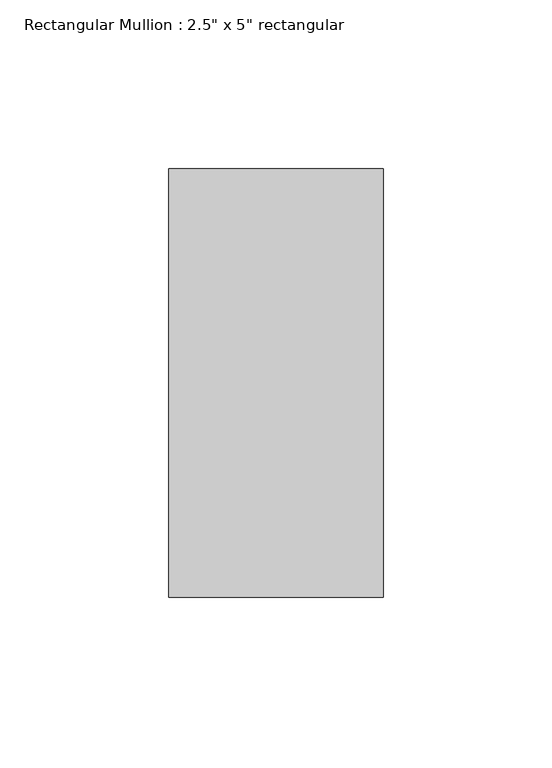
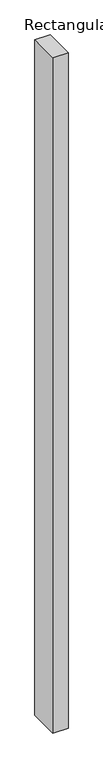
"""IFC4 building model written with IfcOpenShell, lengths in millimetres: member geometry."""

from ifc_helpers import new_model, si_unit, frame, origin, place, context, project, spatial, polyline, outline, extrude, source, transform, mapped, element, save


def member_77f17b2c(model_context):
    return source(origin(), model_context, "Body", "SweptSolid", [
        extrude(outline(polyline([(0.0, 63.5), (0.0, -63.5), (-63.5, -63.5), (-63.5, 63.5), (0.0, 63.5)])), frame((0.0, 0.0, -2952.7500002), z_axis=(0.0, 0.0, 1.0), x_axis=(1.0, 0.0, 0.0)), (0.0, 0.0, 1.0), 2952.7500002),
    ])


if __name__ == "__main__":
    model = new_model("IFC4")
    model_context = context("Model", 3, world=origin())
    ifc_project = project(units=[si_unit("LENGTHUNIT", "METRE", prefix="MILLI")], contexts=[model_context])
    site = spatial("IfcSite", under=ifc_project)
    building = spatial("IfcBuilding", under=site)
    placement = place(None, origin())
    member_shape = member_77f17b2c(model_context)
    element("IfcMember", 1, ObjectType="Rectangular Mullion : 2.5\" x 5\" rectangular", at=placement, inside=building, context=model_context, shape_type="MappedRepresentation", body=[
        mapped(member_shape, transform((0.0, 0.0, 0.0), x_axis=(1.0, 0.0, 0.0), y_axis=(0.0, 1.0, 0.0), z_axis=(0.0, 0.0, 1.0))),
    ])
    save(model, "model.ifc")
